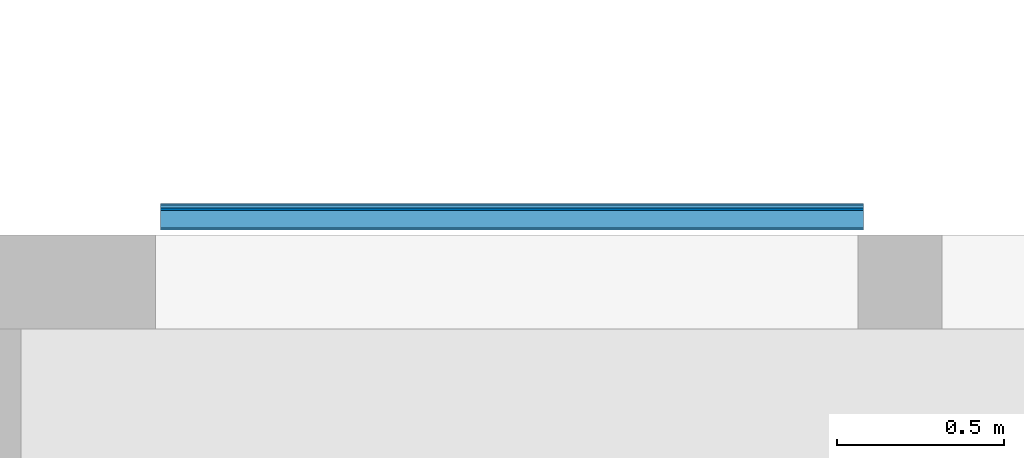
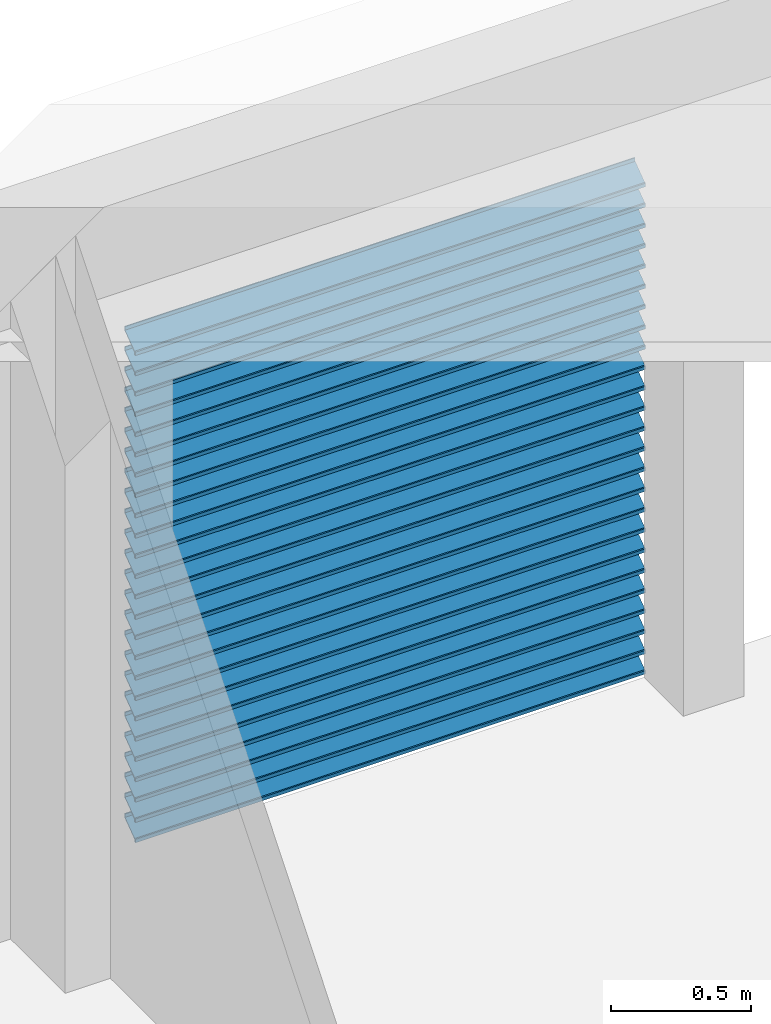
# One storey, part 3 of 22: 1 wall.
"""IFC2X3 building model written with IfcOpenShell, lengths in millimetres."""

from ifc_helpers import new_model, entity, si_unit, converted_unit, derived_unit, direction, frame, origin, place, context, subcontext, project, spatial, faceted_brep, material, type_object, element, save


model = new_model("IFC2X3")

# Units and contexts
model_context = context("Model", 3, precision=0.01, world=origin(), true_north=direction((6.123031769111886e-17, 1.0)))
body_context = subcontext(model_context, "Body", "Model", "MODEL_VIEW")
ifc_project = project(units=[si_unit("LENGTHUNIT", "METRE", prefix="MILLI"), si_unit("AREAUNIT", "SQUARE_METRE"), si_unit("VOLUMEUNIT", "CUBIC_METRE"), converted_unit("PLANEANGLEUNIT", "DEGREE", entity("IfcRatioMeasure", 0.017453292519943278), si_unit("PLANEANGLEUNIT", "RADIAN"), dimensions=[0, 0, 0, 0, 0, 0, 0]), si_unit("MASSUNIT", "GRAM", prefix="KILO"), derived_unit("MASSDENSITYUNIT", [(si_unit("MASSUNIT", "GRAM", prefix="KILO"), 1), (si_unit("LENGTHUNIT", "METRE"), -3)]), derived_unit("MOMENTOFINERTIAUNIT", [(si_unit("LENGTHUNIT", "METRE"), 4)]), si_unit("TIMEUNIT", "SECOND"), si_unit("FREQUENCYUNIT", "HERTZ"), si_unit("THERMODYNAMICTEMPERATUREUNIT", "DEGREE_CELSIUS"), derived_unit("THERMALTRANSMITTANCEUNIT", [(si_unit("MASSUNIT", "GRAM", prefix="KILO"), 1), (si_unit("THERMODYNAMICTEMPERATUREUNIT", "KELVIN"), -1), (si_unit("TIMEUNIT", "SECOND"), -3)]), derived_unit("VOLUMETRICFLOWRATEUNIT", [(si_unit("LENGTHUNIT", "METRE"), 3), (si_unit("TIMEUNIT", "SECOND"), -1)]), derived_unit("MASSFLOWRATEUNIT", [(si_unit("MASSUNIT", "GRAM", prefix="KILO"), 1), (si_unit("TIMEUNIT", "SECOND"), -1)]), derived_unit("ROTATIONALFREQUENCYUNIT", [(si_unit("TIMEUNIT", "SECOND"), -1)]), si_unit("ELECTRICCURRENTUNIT", "AMPERE"), si_unit("ELECTRICVOLTAGEUNIT", "VOLT"), si_unit("POWERUNIT", "WATT"), si_unit("FORCEUNIT", "NEWTON", prefix="KILO"), si_unit("ILLUMINANCEUNIT", "LUX"), si_unit("LUMINOUSFLUXUNIT", "LUMEN"), si_unit("LUMINOUSINTENSITYUNIT", "CANDELA"), derived_unit("USERDEFINED", [(si_unit("MASSUNIT", "GRAM", prefix="KILO"), -1), (si_unit("LENGTHUNIT", "METRE"), -2), (si_unit("TIMEUNIT", "SECOND"), 3), (si_unit("LUMINOUSFLUXUNIT", "LUMEN"), 1)]), derived_unit("SOUNDPOWERUNIT", [(si_unit("MASSUNIT", "GRAM", prefix="KILO"), 1), (si_unit("LENGTHUNIT", "METRE"), 2), (si_unit("TIMEUNIT", "SECOND"), -3)]), derived_unit("SOUNDPRESSUREUNIT", [(si_unit("MASSUNIT", "GRAM", prefix="KILO"), 1), (si_unit("LENGTHUNIT", "METRE"), -1), (si_unit("TIMEUNIT", "SECOND"), -2)]), derived_unit("LINEARVELOCITYUNIT", [(si_unit("LENGTHUNIT", "METRE"), 1), (si_unit("TIMEUNIT", "SECOND"), -1)]), si_unit("PRESSUREUNIT", "PASCAL"), derived_unit("USERDEFINED", [(si_unit("LENGTHUNIT", "METRE"), -2), (si_unit("MASSUNIT", "GRAM", prefix="KILO"), 1), (si_unit("TIMEUNIT", "SECOND"), -2)]), derived_unit("LINEARFORCEUNIT", [(si_unit("MASSUNIT", "GRAM", prefix="KILO"), 1), (si_unit("LENGTHUNIT", "METRE"), 1), (si_unit("TIMEUNIT", "SECOND"), -2), (si_unit("LENGTHUNIT", "METRE"), -1)]), derived_unit("PLANARFORCEUNIT", [(si_unit("MASSUNIT", "GRAM", prefix="KILO"), 1), (si_unit("LENGTHUNIT", "METRE"), 1), (si_unit("TIMEUNIT", "SECOND"), -2), (si_unit("LENGTHUNIT", "METRE"), -2)])], contexts=[model_context])

# Site, building, storey
site_placement = place(None, origin())
site = spatial("IfcSite", under=ifc_project, at=site_placement, Name="Default", CompositionType="ELEMENT")
building_placement = place(site_placement, origin())
building = spatial("IfcBuilding", under=site, at=building_placement, CompositionType="ELEMENT")
storey_placement = place(building_placement, frame((0.0, 0.0, 3300.0)))
storey = spatial("IfcBuildingStorey", under=building, at=storey_placement, Name="Level 2", CompositionType="ELEMENT", Elevation=3299.99999999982)

# Wall
ifc_material = material(Name="Default Wall")
wall_type = type_object("IfcWallType", Name="Curtain Wall:My Curtain Wall:My Curtain Wall : Curtain Wall:My Curtain Wall", PredefinedType="NOTDEFINED", material=ifc_material)
wall_placement = place(storey_placement, frame((-3358.6453834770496, 5306.273327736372, 0.0)))
element("IfcWall", 1, at=wall_placement, inside=storey, type_object=wall_type, material=ifc_material, Name="Curtain Wall:My Curtain Wall:My Curtain Wall : Curtain Wall:My Curtain Wall:My Curtain Wall:My Curtain Wall : Curtain Wall:My Curtain Wall : Curtain Wall:My Curtain Wall:My Curtain Wall : Curtain Wall:My Curtain Wall", ObjectType="Curtain Wall:My Curtain Wall:My Curtain Wall : Curtain Wall:My Curtain Wall:My Curtain Wall:My Curtain Wall : Curtain Wall:My Curtain Wall : Curtain Wall:My Curtain Wall:My Curtain Wall : Curtain Wall:My Curtain Wall", context=body_context, shape_type="Brep", body=[
    faceted_brep([(2100.0, 80.0, 2095.402073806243), (2100.0, 80.0, 2111.666666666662), (2100.0, 75.0, 2111.666666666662), (2100.0, 75.0, 2096.666666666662), (2100.0, 6.575653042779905, 2046.6666666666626), (2100.0, 0.0, 2046.6666666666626), (2100.0, 0.0, 2031.6666666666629), (2100.0, 6.518628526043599, 2031.6666666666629), (2100.0, 6.518628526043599, 2041.7067338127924), (0.0, 80.0, 2095.402073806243), (0.0, 6.518628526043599, 2041.7067338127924), (0.0, 6.518628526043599, 2031.6666666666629), (0.0, 0.0, 2031.6666666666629), (0.0, 0.0, 2046.6666666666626), (0.0, 6.575653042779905, 2046.6666666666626), (0.0, 75.0, 2096.666666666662), (0.0, 75.0, 2111.666666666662), (0.0, 80.0, 2111.666666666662)], [[[0, 1, 2, 3, 4, 5, 6, 7, 8]], [[9, 10, 11, 12, 13, 14, 15, 16, 17]], [[1, 0, 9, 17]], [[2, 1, 17, 16]], [[3, 2, 16, 15]], [[4, 3, 15, 14]], [[5, 4, 14, 13]], [[6, 5, 13, 12]], [[7, 6, 12, 11]], [[8, 7, 11, 10]], [[0, 8, 10, 9]]]),
    faceted_brep([(2100.0, 80.0, 2007.0687404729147), (2100.0, 80.0, 2023.3333333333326), (2100.0, 75.0, 2023.3333333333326), (2100.0, 75.0, 2008.3333333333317), (2100.0, 6.575653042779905, 1958.3333333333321), (2100.0, 0.0, 1958.3333333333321), (2100.0, 0.0, 1943.3333333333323), (2100.0, 6.518628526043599, 1943.3333333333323), (2100.0, 6.518628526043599, 1953.373400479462), (0.0, 80.0, 2007.0687404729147), (0.0, 6.518628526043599, 1953.373400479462), (0.0, 6.518628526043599, 1943.3333333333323), (0.0, 0.0, 1943.3333333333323), (0.0, 0.0, 1958.3333333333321), (0.0, 6.575653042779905, 1958.3333333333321), (0.0, 75.0, 2008.3333333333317), (0.0, 75.0, 2023.3333333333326), (0.0, 80.0, 2023.3333333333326)], [[[0, 1, 2, 3, 4, 5, 6, 7, 8]], [[9, 10, 11, 12, 13, 14, 15, 16, 17]], [[1, 0, 9, 17]], [[2, 1, 17, 16]], [[3, 2, 16, 15]], [[4, 3, 15, 14]], [[5, 4, 14, 13]], [[6, 5, 13, 12]], [[7, 6, 12, 11]], [[8, 7, 11, 10]], [[0, 8, 10, 9]]]),
    faceted_brep([(2100.0, 80.0, 1918.735407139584), (2100.0, 80.0, 1935.0), (2100.0, 75.0, 1935.0), (2100.0, 75.0, 1920.0), (2100.0, 6.575653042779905, 1870.0), (2100.0, 0.0, 1870.0), (2100.0, 0.0, 1855.0), (2100.0, 6.518628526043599, 1855.0), (2100.0, 6.518628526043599, 1865.0400671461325), (0.0, 80.0, 1918.735407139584), (0.0, 6.518628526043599, 1865.0400671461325), (0.0, 6.518628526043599, 1855.0), (0.0, 0.0, 1855.0), (0.0, 0.0, 1870.0), (0.0, 6.575653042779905, 1870.0), (0.0, 75.0, 1920.0), (0.0, 75.0, 1935.0), (0.0, 80.0, 1935.0)], [[[0, 1, 2, 3, 4, 5, 6, 7, 8]], [[9, 10, 11, 12, 13, 14, 15, 16, 17]], [[1, 0, 9, 17]], [[2, 1, 17, 16]], [[3, 2, 16, 15]], [[4, 3, 15, 14]], [[5, 4, 14, 13]], [[6, 5, 13, 12]], [[7, 6, 12, 11]], [[8, 7, 11, 10]], [[0, 8, 10, 9]]]),
    faceted_brep([(2100.0, 80.0, 1830.4020738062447), (2100.0, 80.0, 1846.6666666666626), (2100.0, 75.0, 1846.6666666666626), (2100.0, 75.0, 1831.6666666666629), (2100.0, 6.575653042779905, 1781.6666666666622), (2100.0, 0.0, 1781.6666666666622), (2100.0, 0.0, 1766.6666666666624), (2100.0, 6.518628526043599, 1766.6666666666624), (2100.0, 6.518628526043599, 1776.7067338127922), (0.0, 80.0, 1830.4020738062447), (0.0, 6.518628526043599, 1776.7067338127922), (0.0, 6.518628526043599, 1766.6666666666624), (0.0, 0.0, 1766.6666666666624), (0.0, 0.0, 1781.6666666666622), (0.0, 6.575653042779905, 1781.6666666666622), (0.0, 75.0, 1831.6666666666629), (0.0, 75.0, 1846.6666666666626), (0.0, 80.0, 1846.6666666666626)], [[[0, 1, 2, 3, 4, 5, 6, 7, 8]], [[9, 10, 11, 12, 13, 14, 15, 16, 17]], [[1, 0, 9, 17]], [[2, 1, 17, 16]], [[3, 2, 16, 15]], [[4, 3, 15, 14]], [[5, 4, 14, 13]], [[6, 5, 13, 12]], [[7, 6, 12, 11]], [[8, 7, 11, 10]], [[0, 8, 10, 9]]]),
    faceted_brep([(2100.0, 80.0, 1742.0687404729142), (2100.0, 80.0, 1758.3333333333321), (2100.0, 75.0, 1758.3333333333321), (2100.0, 75.0, 1743.3333333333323), (2100.0, 6.575653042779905, 1693.3333333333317), (2100.0, 0.0, 1693.3333333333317), (2100.0, 0.0, 1678.333333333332), (2100.0, 6.518628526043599, 1678.333333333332), (2100.0, 6.518628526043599, 1688.3734004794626), (0.0, 80.0, 1742.0687404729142), (0.0, 6.518628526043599, 1688.3734004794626), (0.0, 6.518628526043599, 1678.333333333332), (0.0, 0.0, 1678.333333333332), (0.0, 0.0, 1693.3333333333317), (0.0, 6.575653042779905, 1693.3333333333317), (0.0, 75.0, 1743.3333333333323), (0.0, 75.0, 1758.3333333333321), (0.0, 80.0, 1758.3333333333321)], [[[0, 1, 2, 3, 4, 5, 6, 7, 8]], [[9, 10, 11, 12, 13, 14, 15, 16, 17]], [[1, 0, 9, 17]], [[2, 1, 17, 16]], [[3, 2, 16, 15]], [[4, 3, 15, 14]], [[5, 4, 14, 13]], [[6, 5, 13, 12]], [[7, 6, 12, 11]], [[8, 7, 11, 10]], [[0, 8, 10, 9]]]),
    faceted_brep([(2100.0, 80.0, 1653.7354071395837), (2100.0, 80.0, 1670.0), (2100.0, 75.0, 1670.0), (2100.0, 75.0, 1655.0), (2100.0, 6.575653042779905, 1605.0), (2100.0, 0.0, 1605.0), (2100.0, 0.0, 1590.0), (2100.0, 6.518628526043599, 1590.0), (2100.0, 6.518628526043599, 1600.040067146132), (0.0, 80.0, 1653.7354071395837), (0.0, 6.518628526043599, 1600.040067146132), (0.0, 6.518628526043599, 1590.0), (0.0, 0.0, 1590.0), (0.0, 0.0, 1605.0), (0.0, 6.575653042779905, 1605.0), (0.0, 75.0, 1655.0), (0.0, 75.0, 1670.0), (0.0, 80.0, 1670.0)], [[[0, 1, 2, 3, 4, 5, 6, 7, 8]], [[9, 10, 11, 12, 13, 14, 15, 16, 17]], [[1, 0, 9, 17]], [[2, 1, 17, 16]], [[3, 2, 16, 15]], [[4, 3, 15, 14]], [[5, 4, 14, 13]], [[6, 5, 13, 12]], [[7, 6, 12, 11]], [[8, 7, 11, 10]], [[0, 8, 10, 9]]]),
    faceted_brep([(2100.0, 80.0, 1565.4020738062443), (2100.0, 80.0, 1581.6666666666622), (2100.0, 75.0, 1581.6666666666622), (2100.0, 75.0, 1566.6666666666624), (2100.0, 6.575653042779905, 1516.6666666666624), (2100.0, 0.0, 1516.6666666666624), (2100.0, 0.0, 1501.666666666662), (2100.0, 6.518628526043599, 1501.666666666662), (2100.0, 6.518628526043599, 1511.706733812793), (0.0, 80.0, 1565.4020738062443), (0.0, 6.518628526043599, 1511.706733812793), (0.0, 6.518628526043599, 1501.666666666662), (0.0, 0.0, 1501.666666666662), (0.0, 0.0, 1516.6666666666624), (0.0, 6.575653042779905, 1516.6666666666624), (0.0, 75.0, 1566.6666666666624), (0.0, 75.0, 1581.6666666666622), (0.0, 80.0, 1581.6666666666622)], [[[0, 1, 2, 3, 4, 5, 6, 7, 8]], [[9, 10, 11, 12, 13, 14, 15, 16, 17]], [[1, 0, 9, 17]], [[2, 1, 17, 16]], [[3, 2, 16, 15]], [[4, 3, 15, 14]], [[5, 4, 14, 13]], [[6, 5, 13, 12]], [[7, 6, 12, 11]], [[8, 7, 11, 10]], [[0, 8, 10, 9]]]),
    faceted_brep([(2100.0, 80.0, 1477.0687404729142), (2100.0, 80.0, 1493.3333333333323), (2100.0, 75.0, 1493.3333333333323), (2100.0, 75.0, 1478.333333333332), (2100.0, 6.575653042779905, 1428.333333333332), (2100.0, 0.0, 1428.333333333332), (2100.0, 0.0, 1413.3333333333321), (2100.0, 6.518628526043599, 1413.3333333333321), (2100.0, 6.518628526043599, 1423.3734004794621), (0.0, 80.0, 1477.0687404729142), (0.0, 6.518628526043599, 1423.3734004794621), (0.0, 6.518628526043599, 1413.3333333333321), (0.0, 0.0, 1413.3333333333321), (0.0, 0.0, 1428.333333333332), (0.0, 6.575653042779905, 1428.333333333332), (0.0, 75.0, 1478.333333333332), (0.0, 75.0, 1493.3333333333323), (0.0, 80.0, 1493.3333333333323)], [[[0, 1, 2, 3, 4, 5, 6, 7, 8]], [[9, 10, 11, 12, 13, 14, 15, 16, 17]], [[1, 0, 9, 17]], [[2, 1, 17, 16]], [[3, 2, 16, 15]], [[4, 3, 15, 14]], [[5, 4, 14, 13]], [[6, 5, 13, 12]], [[7, 6, 12, 11]], [[8, 7, 11, 10]], [[0, 8, 10, 9]]]),
    faceted_brep([(2100.0, 80.0, 1388.7354071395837), (2100.0, 80.0, 1405.0), (2100.0, 75.0, 1405.0), (2100.0, 75.0, 1390.0), (2100.0, 6.575653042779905, 1340.0), (2100.0, 0.0, 1340.0), (2100.0, 0.0, 1325.0), (2100.0, 6.518628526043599, 1325.0), (2100.0, 6.518628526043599, 1335.040067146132), (0.0, 80.0, 1388.7354071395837), (0.0, 6.518628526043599, 1335.040067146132), (0.0, 6.518628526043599, 1325.0), (0.0, 0.0, 1325.0), (0.0, 0.0, 1340.0), (0.0, 6.575653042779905, 1340.0), (0.0, 75.0, 1390.0), (0.0, 75.0, 1405.0), (0.0, 80.0, 1405.0)], [[[0, 1, 2, 3, 4, 5, 6, 7, 8]], [[9, 10, 11, 12, 13, 14, 15, 16, 17]], [[1, 0, 9, 17]], [[2, 1, 17, 16]], [[3, 2, 16, 15]], [[4, 3, 15, 14]], [[5, 4, 14, 13]], [[6, 5, 13, 12]], [[7, 6, 12, 11]], [[8, 7, 11, 10]], [[0, 8, 10, 9]]]),
    faceted_brep([(2100.0, 80.0, 1300.4020738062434), (2100.0, 80.0, 1316.6666666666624), (2100.0, 75.0, 1316.6666666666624), (2100.0, 75.0, 1301.6666666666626), (2100.0, 6.575653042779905, 1251.6666666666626), (2100.0, 0.0, 1251.6666666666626), (2100.0, 0.0, 1236.6666666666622), (2100.0, 6.518628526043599, 1236.6666666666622), (2100.0, 6.518628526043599, 1246.7067338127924), (0.0, 80.0, 1300.4020738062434), (0.0, 6.518628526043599, 1246.7067338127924), (0.0, 6.518628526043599, 1236.6666666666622), (0.0, 0.0, 1236.6666666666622), (0.0, 0.0, 1251.6666666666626), (0.0, 6.575653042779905, 1251.6666666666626), (0.0, 75.0, 1301.6666666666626), (0.0, 75.0, 1316.6666666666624), (0.0, 80.0, 1316.6666666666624)], [[[0, 1, 2, 3, 4, 5, 6, 7, 8]], [[9, 10, 11, 12, 13, 14, 15, 16, 17]], [[1, 0, 9, 17]], [[2, 1, 17, 16]], [[3, 2, 16, 15]], [[4, 3, 15, 14]], [[5, 4, 14, 13]], [[6, 5, 13, 12]], [[7, 6, 12, 11]], [[8, 7, 11, 10]], [[0, 8, 10, 9]]]),
    faceted_brep([(2100.0, 80.0, 1212.068740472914), (2100.0, 80.0, 1228.333333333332), (2100.0, 75.0, 1228.333333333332), (2100.0, 75.0, 1213.333333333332), (2100.0, 6.575653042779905, 1163.333333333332), (2100.0, 0.0, 1163.333333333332), (2100.0, 0.0, 1148.3333333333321), (2100.0, 6.518628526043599, 1148.3333333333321), (2100.0, 6.518628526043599, 1158.3734004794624), (0.0, 80.0, 1212.068740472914), (0.0, 6.518628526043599, 1158.3734004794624), (0.0, 6.518628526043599, 1148.3333333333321), (0.0, 0.0, 1148.3333333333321), (0.0, 0.0, 1163.333333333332), (0.0, 6.575653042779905, 1163.333333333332), (0.0, 75.0, 1213.333333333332), (0.0, 75.0, 1228.333333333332), (0.0, 80.0, 1228.333333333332)], [[[0, 1, 2, 3, 4, 5, 6, 7, 8]], [[9, 10, 11, 12, 13, 14, 15, 16, 17]], [[1, 0, 9, 17]], [[2, 1, 17, 16]], [[3, 2, 16, 15]], [[4, 3, 15, 14]], [[5, 4, 14, 13]], [[6, 5, 13, 12]], [[7, 6, 12, 11]], [[8, 7, 11, 10]], [[0, 8, 10, 9]]]),
    faceted_brep([(2100.0, 80.0, 1123.735407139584), (2100.0, 80.0, 1140.0), (2100.0, 75.0, 1140.0), (2100.0, 75.0, 1125.0), (2100.0, 6.575653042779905, 1075.0), (2100.0, 0.0, 1075.0), (2100.0, 0.0, 1060.0), (2100.0, 6.518628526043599, 1060.0), (2100.0, 6.518628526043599, 1070.0400671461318), (0.0, 80.0, 1123.735407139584), (0.0, 6.518628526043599, 1070.0400671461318), (0.0, 6.518628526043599, 1060.0), (0.0, 0.0, 1060.0), (0.0, 0.0, 1075.0), (0.0, 6.575653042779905, 1075.0), (0.0, 75.0, 1125.0), (0.0, 75.0, 1140.0), (0.0, 80.0, 1140.0)], [[[0, 1, 2, 3, 4, 5, 6, 7, 8]], [[9, 10, 11, 12, 13, 14, 15, 16, 17]], [[1, 0, 9, 17]], [[2, 1, 17, 16]], [[3, 2, 16, 15]], [[4, 3, 15, 14]], [[5, 4, 14, 13]], [[6, 5, 13, 12]], [[7, 6, 12, 11]], [[8, 7, 11, 10]], [[0, 8, 10, 9]]]),
    faceted_brep([(2100.0, 80.0, 1035.4020738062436), (2100.0, 80.0, 1051.6666666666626), (2100.0, 75.0, 1051.6666666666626), (2100.0, 75.0, 1036.6666666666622), (2100.0, 6.575653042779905, 986.6666666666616), (2100.0, 0.0, 986.6666666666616), (2100.0, 0.0, 971.6666666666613), (2100.0, 6.518628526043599, 971.6666666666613), (2100.0, 6.518628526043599, 981.7067338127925), (0.0, 80.0, 1035.4020738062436), (0.0, 6.518628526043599, 981.7067338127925), (0.0, 6.518628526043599, 971.6666666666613), (0.0, 0.0, 971.6666666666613), (0.0, 0.0, 986.6666666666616), (0.0, 6.575653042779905, 986.6666666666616), (0.0, 75.0, 1036.6666666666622), (0.0, 75.0, 1051.6666666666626), (0.0, 80.0, 1051.6666666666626)], [[[0, 1, 2, 3, 4, 5, 6, 7, 8]], [[9, 10, 11, 12, 13, 14, 15, 16, 17]], [[1, 0, 9, 17]], [[2, 1, 17, 16]], [[3, 2, 16, 15]], [[4, 3, 15, 14]], [[5, 4, 14, 13]], [[6, 5, 13, 12]], [[7, 6, 12, 11]], [[8, 7, 11, 10]], [[0, 8, 10, 9]]]),
    faceted_brep([(2100.0, 80.0, 947.0687404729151), (2100.0, 80.0, 963.333333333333), (2100.0, 75.0, 963.333333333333), (2100.0, 75.0, 948.3333333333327), (2100.0, 6.575653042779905, 898.3333333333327), (2100.0, 0.0, 898.3333333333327), (2100.0, 0.0, 883.3333333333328), (2100.0, 6.518628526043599, 883.3333333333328), (2100.0, 6.518628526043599, 893.373400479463), (0.0, 80.0, 947.0687404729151), (0.0, 6.518628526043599, 893.373400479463), (0.0, 6.518628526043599, 883.3333333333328), (0.0, 0.0, 883.3333333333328), (0.0, 0.0, 898.3333333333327), (0.0, 6.575653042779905, 898.3333333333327), (0.0, 75.0, 948.3333333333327), (0.0, 75.0, 963.333333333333), (0.0, 80.0, 963.333333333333)], [[[0, 1, 2, 3, 4, 5, 6, 7, 8]], [[9, 10, 11, 12, 13, 14, 15, 16, 17]], [[1, 0, 9, 17]], [[2, 1, 17, 16]], [[3, 2, 16, 15]], [[4, 3, 15, 14]], [[5, 4, 14, 13]], [[6, 5, 13, 12]], [[7, 6, 12, 11]], [[8, 7, 11, 10]], [[0, 8, 10, 9]]]),
    faceted_brep([(2100.0, 80.0, 858.7354071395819), (2100.0, 80.0, 875.0), (2100.0, 75.0, 875.0), (2100.0, 75.0, 860.0), (2100.0, 6.575653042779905, 810.0), (2100.0, 0.0, 810.0), (2100.0, 0.0, 795.0), (2100.0, 6.518628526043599, 795.0), (2100.0, 6.518628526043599, 805.0400671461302), (0.0, 80.0, 858.7354071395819), (0.0, 6.518628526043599, 805.0400671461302), (0.0, 6.518628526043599, 795.0), (0.0, 0.0, 795.0), (0.0, 0.0, 810.0), (0.0, 6.575653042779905, 810.0), (0.0, 75.0, 860.0), (0.0, 75.0, 875.0), (0.0, 80.0, 875.0)], [[[0, 1, 2, 3, 4, 5, 6, 7, 8]], [[9, 10, 11, 12, 13, 14, 15, 16, 17]], [[1, 0, 9, 17]], [[2, 1, 17, 16]], [[3, 2, 16, 15]], [[4, 3, 15, 14]], [[5, 4, 14, 13]], [[6, 5, 13, 12]], [[7, 6, 12, 11]], [[8, 7, 11, 10]], [[0, 8, 10, 9]]]),
    faceted_brep([(2100.0, 80.0, 770.4020738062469), (2100.0, 80.0, 786.666666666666), (2100.0, 75.0, 786.666666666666), (2100.0, 75.0, 771.6666666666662), (2100.0, 6.575653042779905, 721.6666666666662), (2100.0, 0.0, 721.6666666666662), (2100.0, 0.0, 706.6666666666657), (2100.0, 6.518628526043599, 706.6666666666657), (2100.0, 6.518628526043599, 716.706733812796), (0.0, 80.0, 770.4020738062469), (0.0, 6.518628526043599, 716.706733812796), (0.0, 6.518628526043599, 706.6666666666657), (0.0, 0.0, 706.6666666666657), (0.0, 0.0, 721.6666666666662), (0.0, 6.575653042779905, 721.6666666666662), (0.0, 75.0, 771.6666666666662), (0.0, 75.0, 786.666666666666), (0.0, 80.0, 786.666666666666)], [[[0, 1, 2, 3, 4, 5, 6, 7, 8]], [[9, 10, 11, 12, 13, 14, 15, 16, 17]], [[1, 0, 9, 17]], [[2, 1, 17, 16]], [[3, 2, 16, 15]], [[4, 3, 15, 14]], [[5, 4, 14, 13]], [[6, 5, 13, 12]], [[7, 6, 12, 11]], [[8, 7, 11, 10]], [[0, 8, 10, 9]]]),
    faceted_brep([(2100.0, 80.0, 682.0687404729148), (2100.0, 80.0, 698.3333333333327), (2100.0, 75.0, 698.3333333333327), (2100.0, 75.0, 683.3333333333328), (2100.0, 6.575653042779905, 633.3333333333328), (2100.0, 0.0, 633.3333333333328), (2100.0, 0.0, 618.333333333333), (2100.0, 6.518628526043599, 618.333333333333), (2100.0, 6.518628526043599, 628.3734004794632), (0.0, 80.0, 682.0687404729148), (0.0, 6.518628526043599, 628.3734004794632), (0.0, 6.518628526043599, 618.333333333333), (0.0, 0.0, 618.333333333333), (0.0, 0.0, 633.3333333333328), (0.0, 6.575653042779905, 633.3333333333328), (0.0, 75.0, 683.3333333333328), (0.0, 75.0, 698.3333333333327), (0.0, 80.0, 698.3333333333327)], [[[0, 1, 2, 3, 4, 5, 6, 7, 8]], [[9, 10, 11, 12, 13, 14, 15, 16, 17]], [[1, 0, 9, 17]], [[2, 1, 17, 16]], [[3, 2, 16, 15]], [[4, 3, 15, 14]], [[5, 4, 14, 13]], [[6, 5, 13, 12]], [[7, 6, 12, 11]], [[8, 7, 11, 10]], [[0, 8, 10, 9]]]),
    faceted_brep([(2100.0, 80.0, 593.735407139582), (2100.0, 80.0, 610.0), (2100.0, 75.0, 610.0), (2100.0, 75.0, 595.0), (2100.0, 6.575653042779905, 545.0), (2100.0, 0.0, 545.0), (2100.0, 0.0, 530.0), (2100.0, 6.518628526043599, 530.0), (2100.0, 6.518628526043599, 540.0400671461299), (0.0, 80.0, 593.735407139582), (0.0, 6.518628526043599, 540.0400671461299), (0.0, 6.518628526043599, 530.0), (0.0, 0.0, 530.0), (0.0, 0.0, 545.0), (0.0, 6.575653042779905, 545.0), (0.0, 75.0, 595.0), (0.0, 75.0, 610.0), (0.0, 80.0, 610.0)], [[[0, 1, 2, 3, 4, 5, 6, 7, 8]], [[9, 10, 11, 12, 13, 14, 15, 16, 17]], [[1, 0, 9, 17]], [[2, 1, 17, 16]], [[3, 2, 16, 15]], [[4, 3, 15, 14]], [[5, 4, 14, 13]], [[6, 5, 13, 12]], [[7, 6, 12, 11]], [[8, 7, 11, 10]], [[0, 8, 10, 9]]]),
    faceted_brep([(2100.0, 80.0, 505.4020738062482), (2100.0, 80.0, 521.6666666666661), (2100.0, 75.0, 521.6666666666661), (2100.0, 75.0, 506.6666666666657), (2100.0, 6.575653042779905, 456.6666666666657), (2100.0, 0.0, 456.6666666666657), (2100.0, 0.0, 441.6666666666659), (2100.0, 6.518628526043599, 441.6666666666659), (2100.0, 6.518628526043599, 451.7067338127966), (0.0, 80.0, 505.4020738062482), (0.0, 6.518628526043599, 451.7067338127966), (0.0, 6.518628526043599, 441.6666666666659), (0.0, 0.0, 441.6666666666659), (0.0, 0.0, 456.6666666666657), (0.0, 6.575653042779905, 456.6666666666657), (0.0, 75.0, 506.6666666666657), (0.0, 75.0, 521.6666666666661), (0.0, 80.0, 521.6666666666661)], [[[0, 1, 2, 3, 4, 5, 6, 7, 8]], [[9, 10, 11, 12, 13, 14, 15, 16, 17]], [[1, 0, 9, 17]], [[2, 1, 17, 16]], [[3, 2, 16, 15]], [[4, 3, 15, 14]], [[5, 4, 14, 13]], [[6, 5, 13, 12]], [[7, 6, 12, 11]], [[8, 7, 11, 10]], [[0, 8, 10, 9]]]),
    faceted_brep([(2100.0, 80.0, 417.0687404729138), (2100.0, 80.0, 433.3333333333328), (2100.0, 75.0, 433.3333333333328), (2100.0, 75.0, 418.333333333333), (2100.0, 6.575653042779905, 368.333333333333), (2100.0, 0.0, 368.333333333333), (2100.0, 0.0, 353.33333333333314), (2100.0, 6.518628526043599, 353.33333333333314), (2100.0, 6.518628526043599, 363.3734004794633), (0.0, 80.0, 417.0687404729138), (0.0, 6.518628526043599, 363.3734004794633), (0.0, 6.518628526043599, 353.33333333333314), (0.0, 0.0, 353.33333333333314), (0.0, 0.0, 368.333333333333), (0.0, 6.575653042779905, 368.333333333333), (0.0, 75.0, 418.333333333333), (0.0, 75.0, 433.3333333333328), (0.0, 80.0, 433.3333333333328)], [[[0, 1, 2, 3, 4, 5, 6, 7, 8]], [[9, 10, 11, 12, 13, 14, 15, 16, 17]], [[1, 0, 9, 17]], [[2, 1, 17, 16]], [[3, 2, 16, 15]], [[4, 3, 15, 14]], [[5, 4, 14, 13]], [[6, 5, 13, 12]], [[7, 6, 12, 11]], [[8, 7, 11, 10]], [[0, 8, 10, 9]]]),
    faceted_brep([(2100.0, 80.0, 328.73540713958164), (2100.0, 80.0, 345.0), (2100.0, 75.0, 345.0), (2100.0, 75.0, 330.0), (2100.0, 6.575653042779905, 280.0), (2100.0, 0.0, 280.0), (2100.0, 0.0, 265.0), (2100.0, 6.518628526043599, 265.0), (2100.0, 6.518628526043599, 275.0400671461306), (0.0, 80.0, 328.73540713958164), (0.0, 6.518628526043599, 275.0400671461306), (0.0, 6.518628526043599, 265.0), (0.0, 0.0, 265.0), (0.0, 0.0, 280.0), (0.0, 6.575653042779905, 280.0), (0.0, 75.0, 330.0), (0.0, 75.0, 345.0), (0.0, 80.0, 345.0)], [[[0, 1, 2, 3, 4, 5, 6, 7, 8]], [[9, 10, 11, 12, 13, 14, 15, 16, 17]], [[1, 0, 9, 17]], [[2, 1, 17, 16]], [[3, 2, 16, 15]], [[4, 3, 15, 14]], [[5, 4, 14, 13]], [[6, 5, 13, 12]], [[7, 6, 12, 11]], [[8, 7, 11, 10]], [[0, 8, 10, 9]]]),
    faceted_brep([(2100.0, 80.0, 240.40207380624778), (2100.0, 80.0, 256.6666666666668), (2100.0, 75.0, 256.6666666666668), (2100.0, 75.0, 241.66666666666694), (2100.0, 6.575653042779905, 191.66666666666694), (2100.0, 0.0, 191.66666666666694), (2100.0, 0.0, 176.66666666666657), (2100.0, 6.518628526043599, 176.66666666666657), (2100.0, 6.518628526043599, 186.7067338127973), (0.0, 80.0, 240.40207380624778), (0.0, 6.518628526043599, 186.7067338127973), (0.0, 6.518628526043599, 176.66666666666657), (0.0, 0.0, 176.66666666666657), (0.0, 0.0, 191.66666666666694), (0.0, 6.575653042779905, 191.66666666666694), (0.0, 75.0, 241.66666666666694), (0.0, 75.0, 256.6666666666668), (0.0, 80.0, 256.6666666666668)], [[[0, 1, 2, 3, 4, 5, 6, 7, 8]], [[9, 10, 11, 12, 13, 14, 15, 16, 17]], [[1, 0, 9, 17]], [[2, 1, 17, 16]], [[3, 2, 16, 15]], [[4, 3, 15, 14]], [[5, 4, 14, 13]], [[6, 5, 13, 12]], [[7, 6, 12, 11]], [[8, 7, 11, 10]], [[0, 8, 10, 9]]]),
    faceted_brep([(2100.0, 80.0, 152.0687404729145), (2100.0, 80.0, 168.33333333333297), (2100.0, 75.0, 168.33333333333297), (2100.0, 75.0, 153.33333333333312), (2100.0, 6.575653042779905, 103.33333333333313), (2100.0, 0.0, 103.33333333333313), (2100.0, 0.0, 88.3333333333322), (2100.0, 6.518628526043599, 88.3333333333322), (2100.0, 6.518628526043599, 98.37340047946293), (0.0, 80.0, 152.0687404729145), (0.0, 6.518628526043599, 98.37340047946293), (0.0, 6.518628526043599, 88.3333333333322), (0.0, 0.0, 88.3333333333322), (0.0, 0.0, 103.33333333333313), (0.0, 6.575653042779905, 103.33333333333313), (0.0, 75.0, 153.33333333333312), (0.0, 75.0, 168.33333333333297), (0.0, 80.0, 168.33333333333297)], [[[0, 1, 2, 3, 4, 5, 6, 7, 8]], [[9, 10, 11, 12, 13, 14, 15, 16, 17]], [[1, 0, 9, 17]], [[2, 1, 17, 16]], [[3, 2, 16, 15]], [[4, 3, 15, 14]], [[5, 4, 14, 13]], [[6, 5, 13, 12]], [[7, 6, 12, 11]], [[8, 7, 11, 10]], [[0, 8, 10, 9]]]),
    faceted_brep([(2100.0, 80.0, 2183.7354071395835), (2100.0, 80.0, 2200.0), (2100.0, 75.0, 2200.0), (2100.0, 75.0, 2185.0), (2100.0, 6.575653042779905, 2135.0), (2100.0, 0.0, 2135.0), (2100.0, 0.0, 2120.0), (2100.0, 6.518628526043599, 2120.0), (2100.0, 6.518628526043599, 2130.040067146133), (0.0, 80.0, 2183.7354071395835), (0.0, 6.518628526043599, 2130.040067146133), (0.0, 6.518628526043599, 2120.0), (0.0, 0.0, 2120.0), (0.0, 0.0, 2135.0), (0.0, 6.575653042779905, 2135.0), (0.0, 75.0, 2185.0), (0.0, 75.0, 2200.0), (0.0, 80.0, 2200.0)], [[[0, 1, 2, 3, 4, 5, 6, 7, 8]], [[9, 10, 11, 12, 13, 14, 15, 16, 17]], [[1, 0, 9, 17]], [[2, 1, 17, 16]], [[3, 2, 16, 15]], [[4, 3, 15, 14]], [[5, 4, 14, 13]], [[6, 5, 13, 12]], [[7, 6, 12, 11]], [[8, 7, 11, 10]], [[0, 8, 10, 9]]]),
    faceted_brep([(2100.0, 80.0, 63.73540713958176), (2100.0, 80.0, 80.0), (2100.0, 75.0, 80.0), (2100.0, 75.0, 65.0), (2100.0, 6.575653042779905, 15.0), (2100.0, 0.0, 15.0), (2100.0, 0.0, 0.0), (2100.0, 6.518628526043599, 0.0), (2100.0, 6.518628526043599, 10.04006714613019), (0.0, 80.0, 63.73540713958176), (0.0, 6.518628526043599, 10.04006714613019), (0.0, 6.518628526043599, 0.0), (0.0, 0.0, 0.0), (0.0, 0.0, 15.0), (0.0, 6.575653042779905, 15.0), (0.0, 75.0, 65.0), (0.0, 75.0, 80.0), (0.0, 80.0, 80.0)], [[[0, 1, 2, 3, 4, 5, 6, 7, 8]], [[9, 10, 11, 12, 13, 14, 15, 16, 17]], [[1, 0, 9, 17]], [[2, 1, 17, 16]], [[3, 2, 16, 15]], [[4, 3, 15, 14]], [[5, 4, 14, 13]], [[6, 5, 13, 12]], [[7, 6, 12, 11]], [[8, 7, 11, 10]], [[0, 8, 10, 9]]]),
])

save(model, "model.ifc")
